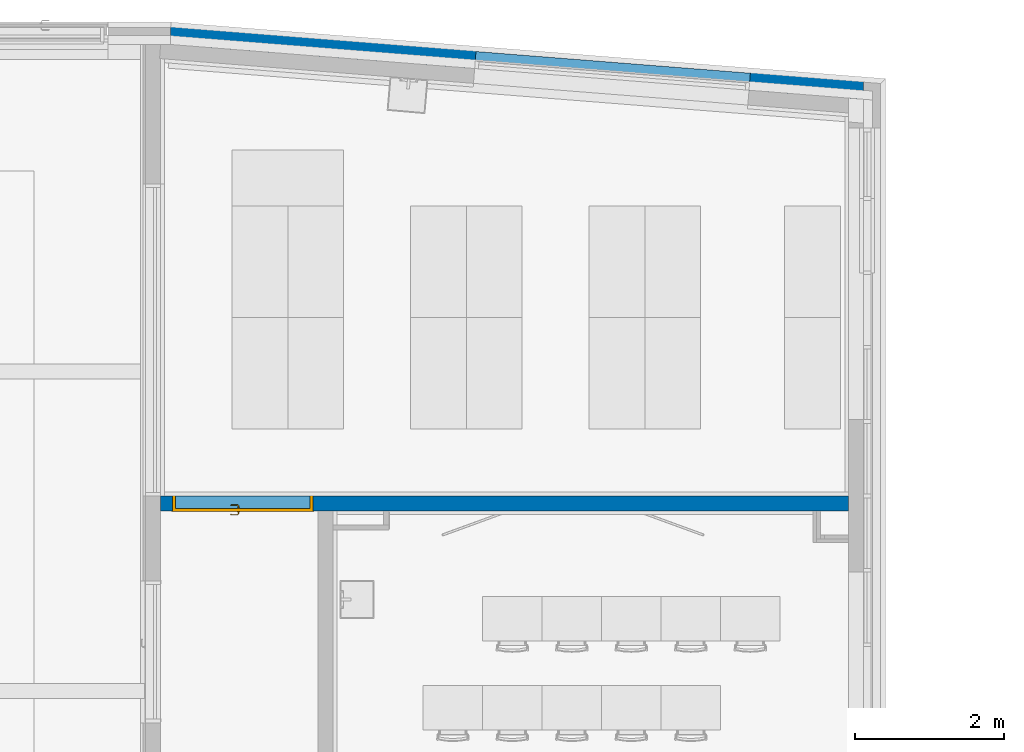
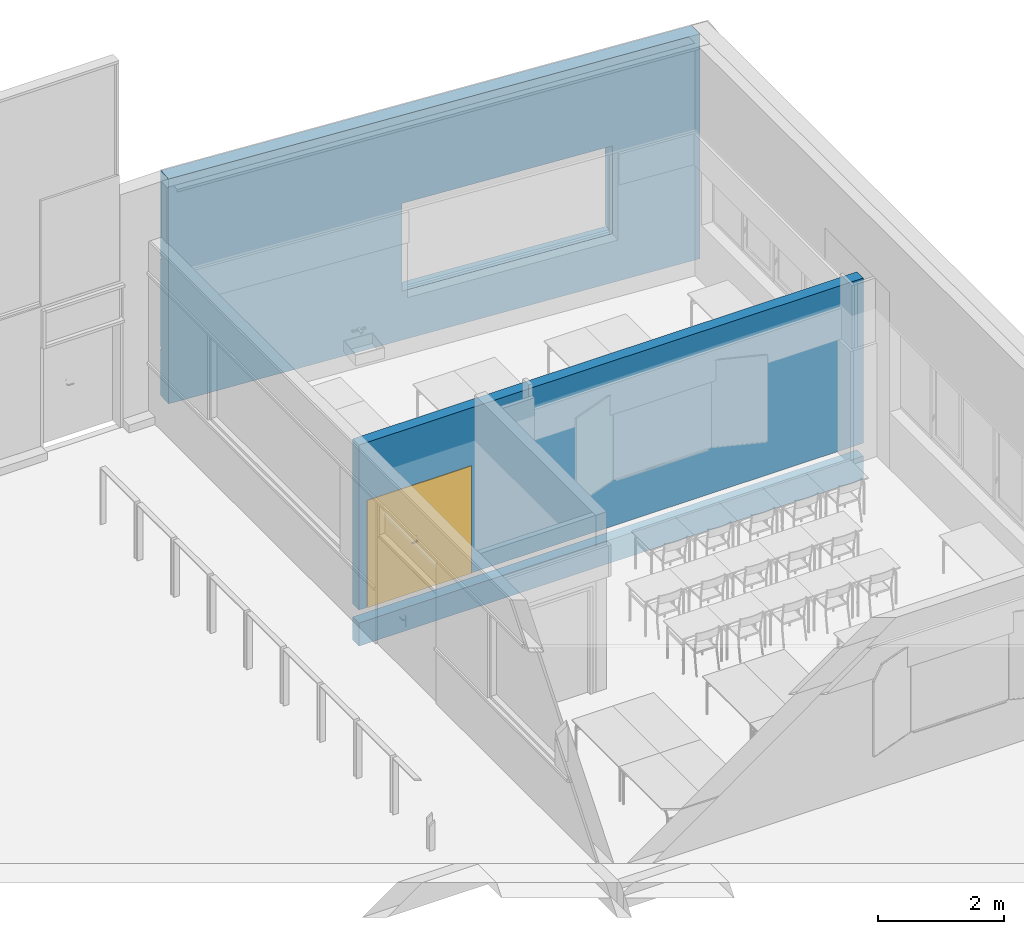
# One storey, part 106 of 137: 2 walls, 1 door, 1 opening.
"""IFC2X3 building model written with IfcOpenShell, lengths in centimetres."""

from ifc_helpers import new_model, entity, si_unit, converted_unit, derived_unit, direction, frame, frame_2d, origin, place, context, subcontext, project, spatial, rectangle, extrude, faceted_brep, source, transform, mapped, material, material_list, layer, layer_set, type_object, type_shapes, element, fill, save


model = new_model("IFC2X3")

# Units and contexts
model_context = context("Model", 3, precision=0.001, world=origin(), true_north=direction((6.12303176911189e-17, 1.0)))
body_context = subcontext(model_context, "Body", "Model", "MODEL_VIEW")
ifc_project = project(units=[si_unit("LENGTHUNIT", "METRE", prefix="CENTI"), si_unit("AREAUNIT", "SQUARE_METRE"), si_unit("VOLUMEUNIT", "CUBIC_METRE"), converted_unit("PLANEANGLEUNIT", "DEGREE", entity("IfcRatioMeasure", 0.0174532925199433), si_unit("PLANEANGLEUNIT", "RADIAN"), dimensions=[0, 0, 0, 0, 0, 0, 0]), si_unit("MASSUNIT", "GRAM", prefix="KILO"), si_unit("TIMEUNIT", "SECOND"), si_unit("FREQUENCYUNIT", "HERTZ"), si_unit("THERMODYNAMICTEMPERATUREUNIT", "DEGREE_CELSIUS"), derived_unit("THERMALTRANSMITTANCEUNIT", [(si_unit("MASSUNIT", "GRAM", prefix="KILO"), 1), (si_unit("THERMODYNAMICTEMPERATUREUNIT", "KELVIN"), -1), (si_unit("TIMEUNIT", "SECOND"), -3)]), derived_unit("VOLUMETRICFLOWRATEUNIT", [(si_unit("LENGTHUNIT", "METRE"), 3), (si_unit("TIMEUNIT", "SECOND"), -1)]), si_unit("ELECTRICCURRENTUNIT", "AMPERE"), si_unit("ELECTRICVOLTAGEUNIT", "VOLT"), si_unit("POWERUNIT", "WATT"), si_unit("FORCEUNIT", "NEWTON", prefix="KILO"), si_unit("ILLUMINANCEUNIT", "LUX"), si_unit("LUMINOUSFLUXUNIT", "LUMEN"), si_unit("LUMINOUSINTENSITYUNIT", "CANDELA"), derived_unit("USERDEFINED", [(si_unit("MASSUNIT", "GRAM", prefix="KILO"), -1), (si_unit("LENGTHUNIT", "METRE"), -2), (si_unit("TIMEUNIT", "SECOND"), 3), (si_unit("LUMINOUSFLUXUNIT", "LUMEN"), 1)]), derived_unit("LINEARVELOCITYUNIT", [(si_unit("LENGTHUNIT", "METRE"), 1), (si_unit("TIMEUNIT", "SECOND"), -1)]), si_unit("PRESSUREUNIT", "PASCAL"), derived_unit("USERDEFINED", [(si_unit("LENGTHUNIT", "METRE"), -2), (si_unit("MASSUNIT", "GRAM", prefix="KILO"), 1), (si_unit("TIMEUNIT", "SECOND"), -2)])], contexts=[model_context])

# Site, building, storey
site_placement = place(None, frame((8.62739174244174, -249.285249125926, 0.0)))
site = spatial("IfcSite", under=ifc_project, at=site_placement, Name="Default", CompositionType="ELEMENT")
building_placement = place(site_placement, origin())
building = spatial("IfcBuilding", under=site, at=building_placement, CompositionType="ELEMENT")
storey_placement = place(building_placement, origin())
storey = spatial("IfcBuildingStorey", under=building, at=storey_placement, Name="RDC", CompositionType="ELEMENT", Elevation=-8.82465566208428e-11)

# Wall, opening, door
ifc_material_1 = material(Name="Béton, coulé sur place, gris")
ifc_layer = layer(ifc_material_1, 20.0)
ifc_layer_set = layer_set([ifc_layer], Name="Mur de base:BET 20")
wall_type_1 = type_object("IfcWallType", Name="Mur de base:BET 20", PredefinedType="STANDARD", material=ifc_layer_set)
wall_1_placement = place(storey_placement, frame((3978.90482781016, 6944.9802081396, -70.0), z_axis=(0.0, 0.0, 1.0), x_axis=(-1.0, 0.0, 0.0)))
wall_1 = element("IfcWall", 1, at=wall_1_placement, inside=storey, type_object=wall_type_1, Name="Mur de base:BET 20", ObjectType="Mur de base:BET 20", context=body_context, shape_type="Brep", body=[
    faceted_brep([(0.0, -10.0, 0.0), (925.0, -10.0, 0.0), (925.0, -10.0, 45.0), (0.0, -10.0, 45.0), (925.0, 10.0, 0.0), (0.0, 10.0, 0.0), (0.0, 10.0, 45.0), (925.0, 10.0, 45.0)], [[[0, 1, 2, 3]], [[4, 5, 6, 7]], [[1, 0, 5, 4]], [[3, 2, 7, 6]], [[1, 4, 7, 2]], [[5, 0, 3, 6]]]),
    faceted_brep([(720.0, -10.0, 277.0), (720.0, 10.0, 277.0), (909.0, 10.0, 277.0), (909.0, -10.0, 277.0), (720.0, -10.0, 70.0), (720.0, 10.0, 70.0), (909.0, 10.0, 70.0), (909.0, -10.0, 70.0), (0.0, -10.0, 390.0), (925.0, -10.0, 390.0), (925.0, 10.0, 390.0), (0.0, 10.0, 390.0), (0.0, -10.0, 70.0), (0.0, 10.0, 70.0), (38.0, 10.0, 70.0), (43.0, 10.0, 70.0), (48.0, 10.0, 70.0), (618.0, 10.0, 70.0), (625.0, 10.0, 70.0), (693.0, 10.0, 70.0), (713.0, 10.0, 70.0), (925.0, -10.0, 350.0), (925.0, -10.0, 290.0), (925.0, -10.0, 70.0), (925.0, 10.0, 70.0)], [[[0, 1, 2, 3]], [[1, 0, 4, 5]], [[3, 2, 6, 7]], [[8, 9, 10, 11]], [[4, 12, 13, 14, 15, 16, 17, 18, 19, 20, 5]], [[8, 11, 13, 12]], [[10, 9, 21, 22, 23, 24]], [[23, 7, 6, 24]], [[2, 1, 5, 20, 19, 18, 17, 16, 15, 14, 13, 11, 10, 24, 6]], [[0, 3, 7, 23, 22, 21, 9, 8, 12, 4]]]),
])
opening_placement = place(wall_1_placement, frame((720.0, -10.0, 70.0)))
opening = element("IfcOpeningElement", 2, at=opening_placement, cuts=wall_1, Name="Double(R)_bois_mu:183 x 204 cm:1", ObjectType="Opening", context=body_context, shape_type="SweptSolid", body=[
    extrude(rectangle(XDim=206.999999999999, YDim=189.0, at=frame_2d((103.499999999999, 94.4999999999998), x_axis=(1.0, 0.0))), frame((0.0, 0.0, 0.0), z_axis=(0.0, 1.0, 0.0), x_axis=(0.0, 0.0, 1.0)), (0.0, 0.0, 1.0), 20.0),
])
ifc_material_2 = material(Name="Porte - Poignée")
ifc_material_3 = material(Name="Porte - Cadre")
ifc_material_4 = material(Name="Porte - Panneau")
ifc_material_list_1 = material_list([ifc_material_2, ifc_material_3, ifc_material_4])
ifc_material_list_2 = material_list([ifc_material_2, ifc_material_3, ifc_material_4])
door_style = type_object("IfcDoorStyle", Name="183 x 204 cm", ConstructionType="NOTDEFINED", OperationType="DOUBLE_DOOR_SINGLE_SWING", ParameterTakesPrecedence=False, Sizeable=False, material=ifc_material_list_2)
shared_shape = source(origin(), body_context, "Body", "Brep", [
    faceted_brep([(89.2025298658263, 3.69999999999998, 100.778044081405), (88.7974701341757, 3.69999999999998, 100.778044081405), (88.3999999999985, 3.69999999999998, 100.699999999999), (88.4000000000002, 3.69999999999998, 99.3000000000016), (88.7974701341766, 3.69999999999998, 99.2219559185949), (89.2025298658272, 3.69999999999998, 99.2219559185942), (89.6000000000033, 3.69999999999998, 99.2999999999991), (89.600000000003, 3.69999999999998, 100.699999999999), (88.3999999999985, 5.94852045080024, 100.699999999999), (88.3999999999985, 5.94852045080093, 99.3000000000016), (88.7974701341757, 6.1131579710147, 100.778044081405), (89.2025298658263, 6.2809392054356, 100.778044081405), (87.583890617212, 7.89957845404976, 100.778044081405), (87.4161093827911, 7.49451872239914, 100.778044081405), (79.0793122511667, 7.49451872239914, 100.778044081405), (78.9115310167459, 7.89957845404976, 100.778044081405), (78.145104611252, 7.13315204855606, 100.778044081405), (78.4315250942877, 6.84673156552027, 100.778044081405), (89.6000000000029, 6.44557672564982, 100.699999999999), (89.6000000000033, 6.44557672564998, 99.2999999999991), (89.2025298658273, 6.28093920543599, 99.2219559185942), (88.7974701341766, 6.11315797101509, 99.2219559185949), (87.4161093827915, 7.49451872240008, 99.2219559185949), (87.5838906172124, 7.8995784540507, 99.2219559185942), (78.9115310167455, 7.8995784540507, 99.2219559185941), (79.0793122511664, 7.49451872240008, 99.2219559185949), (78.4315250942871, 6.84673156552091, 99.2219559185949), (78.1451046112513, 7.1331520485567, 99.2219559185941), (87.2514718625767, 7.09704858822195, 100.699999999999), (87.2514718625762, 7.09704858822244, 99.3000000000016), (87.7485281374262, 8.29704858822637, 100.699999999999), (87.7485281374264, 8.29704858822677, 99.2999999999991), (83.2477108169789, 7.09704858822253, 100.699999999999), (79.2439497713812, 7.09704858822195, 100.699999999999), (79.2439497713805, 7.09704858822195, 99.3000000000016), (83.2477108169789, 7.09704858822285, 99.3000000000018), (83.2477108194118, 7.71249275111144, 100.787811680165), (82.7399422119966, 8.29704858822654, 100.699999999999), (78.7468934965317, 8.29704858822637, 100.699999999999), (83.7554791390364, 8.29704858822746, 99.2999999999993), (78.7468934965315, 8.29704858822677, 99.2999999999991), (83.247710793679, 7.71249274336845, 99.2121883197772), (77.8640507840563, 7.41420587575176, 100.699999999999), (77.8640507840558, 7.41420587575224, 99.2999999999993), (78.7125789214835, 6.56567773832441, 99.3000000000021), (78.7125789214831, 6.56567773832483, 100.699999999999)], [[[0, 1, 2, 3, 4, 5, 6, 7]], [[8, 9, 3, 2]], [[1, 10, 8, 2]], [[1, 0, 11, 12, 13, 10]], [[14, 15, 16, 17]], [[7, 18, 11, 0]], [[18, 7, 6, 19]], [[6, 5, 20, 19]], [[5, 4, 21, 22, 23, 20]], [[24, 25, 26, 27]], [[4, 3, 9, 21]], [[28, 29, 9, 8]], [[8, 10, 13, 28]], [[18, 30, 12, 11]], [[31, 30, 18, 19]], [[19, 20, 23, 31]], [[21, 9, 29, 22]], [[29, 28, 32, 33, 34, 35]], [[36, 32, 13]], [[37, 38, 15]], [[37, 12, 30]], [[36, 12, 37]], [[14, 32, 36]], [[36, 15, 14]], [[28, 13, 32]], [[32, 14, 33]], [[12, 36, 13]], [[15, 36, 37]], [[30, 31, 39, 40, 38, 37]], [[23, 41, 39]], [[24, 39, 41]], [[39, 31, 23]], [[39, 24, 40]], [[22, 35, 41]], [[41, 23, 22]], [[41, 35, 25]], [[35, 22, 29]], [[34, 25, 35]], [[24, 41, 25]], [[17, 16, 42, 43, 27, 26, 44, 45]], [[45, 44, 34, 33]], [[33, 14, 17, 45]], [[15, 38, 42, 16]], [[43, 42, 38, 40]], [[24, 27, 43, 40]], [[34, 44, 26, 25]]]),
    faceted_brep([(88.7974701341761, -1.30000000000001, 100.778044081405), (89.2025298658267, -1.30000000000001, 100.778044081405), (89.6000000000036, -1.30000000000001, 100.699999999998), (89.6000000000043, -1.30000000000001, 99.2999999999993), (89.2025298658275, -1.30000000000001, 99.2219559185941), (88.7974701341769, -1.30000000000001, 99.2219559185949), (88.3999999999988, -1.30000000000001, 99.3000000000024), (88.3999999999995, -1.30000000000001, 100.699999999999), (89.2025298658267, -3.90045754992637, 100.778044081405), (89.6000000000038, -4.06509507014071, 100.699999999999), (88.7974701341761, -3.73267631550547, 100.778044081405), (87.4298602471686, -5.10028620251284, 100.778044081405), (87.5976414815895, -5.50534593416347, 100.778044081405), (78.9142453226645, -5.50534593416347, 100.778044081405), (79.0820265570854, -5.10028620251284, 100.778044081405), (78.4342394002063, -4.4524990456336, 100.778044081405), (78.1478189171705, -4.73891952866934, 100.778044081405), (88.3999999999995, -3.56803879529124, 100.699999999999), (88.3999999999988, -3.56803879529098, 99.3000000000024), (88.7974701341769, -3.7326763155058, 99.2219559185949), (89.2025298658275, -3.9004575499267, 99.2219559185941), (87.5976414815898, -5.50534593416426, 99.2219559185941), (87.4298602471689, -5.10028620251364, 99.2219559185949), (79.0820265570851, -5.10028620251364, 99.2219559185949), (78.9142453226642, -5.50534593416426, 99.2219559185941), (78.1478189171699, -4.73891952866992, 99.2219559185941), (78.4342394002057, -4.45249904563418, 99.2219559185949), (89.6000000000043, -4.06509507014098, 99.2999999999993), (87.7622790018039, -5.9028160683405, 100.699999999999), (87.2652227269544, -4.70281606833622, 100.699999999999), (87.2652227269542, -4.70281606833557, 99.3000000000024), (87.7622790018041, -5.90281606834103, 99.2999999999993), (83.255943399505, -5.31828027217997, 100.787811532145), (83.7692302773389, -5.90281606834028, 100.699999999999), (78.7496078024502, -5.90281606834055, 100.699999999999), (83.2559434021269, -4.70281606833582, 100.699999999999), (79.2466640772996, -4.70281606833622, 100.699999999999), (83.2559436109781, -4.70281606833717, 99.3000000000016), (79.2466640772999, -4.70281606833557, 99.3000000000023), (83.2559434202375, -5.31828027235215, 99.2121884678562), (82.7426572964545, -5.90281606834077, 99.2999999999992), (78.7496078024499, -5.90281606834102, 99.2999999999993), (78.715293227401, -4.17144521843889, 99.3000000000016), (77.8667650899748, -5.01997335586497, 99.2999999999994), (77.8667650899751, -5.01997335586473, 100.699999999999), (78.7152932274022, -4.17144521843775, 100.699999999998)], [[[0, 1, 2, 3, 4, 5, 6, 7]], [[2, 1, 8, 9]], [[1, 0, 10, 11, 12, 8]], [[13, 14, 15, 16]], [[0, 7, 17, 10]], [[18, 17, 7, 6]], [[5, 19, 18, 6]], [[5, 4, 20, 21, 22, 19]], [[23, 24, 25, 26]], [[3, 27, 20, 4]], [[9, 27, 3, 2]], [[9, 8, 12, 28]], [[10, 17, 29, 11]], [[30, 29, 17, 18]], [[18, 19, 22, 30]], [[20, 27, 31, 21]], [[28, 31, 27, 9]], [[12, 32, 33]], [[13, 33, 32]], [[33, 28, 12]], [[33, 13, 34]], [[11, 35, 32]], [[32, 12, 11]], [[32, 35, 14]], [[35, 11, 29]], [[36, 14, 35]], [[13, 32, 14]], [[29, 30, 37, 38, 36, 35]], [[39, 37, 22]], [[40, 41, 24]], [[40, 21, 31]], [[39, 21, 40]], [[23, 37, 39]], [[39, 24, 23]], [[30, 22, 37]], [[37, 23, 38]], [[21, 39, 22]], [[24, 39, 40]], [[31, 28, 33, 34, 41, 40]], [[42, 26, 25, 43, 44, 16, 15, 45]], [[13, 16, 44, 34]], [[36, 45, 15, 14]], [[42, 45, 36, 38]], [[38, 23, 26, 42]], [[24, 41, 43, 25]], [[44, 43, 41, 34]]]),
    faceted_brep([(89.0, 3.19999999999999, 86.4641016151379), (90.0352761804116, 3.19999999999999, 86.6003983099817), (91.0, 3.19999999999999, 87.0), (91.0, 3.19999999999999, 108.0), (90.0352761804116, 3.19999999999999, 108.399601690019), (89.0, 3.19999999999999, 108.535898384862), (87.9647238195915, 3.19999999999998, 108.399601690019), (87.0, 3.19999999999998, 108.0), (87.0, 3.19999999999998, 87.0), (87.9647238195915, 3.19999999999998, 86.6003983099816), (89.0, 3.69999999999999, 108.535898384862), (90.0352761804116, 3.69999999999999, 108.399601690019), (91.0, 3.69999999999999, 108.0), (91.0, 3.69999999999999, 87.0), (90.0352761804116, 3.69999999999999, 86.6003983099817), (89.0, 3.69999999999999, 86.4641016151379), (87.9647238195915, 3.69999999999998, 86.6003983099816), (87.0, 3.69999999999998, 87.0), (87.0, 3.69999999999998, 108.0), (87.9647238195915, 3.69999999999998, 108.399601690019)], [[[0, 1, 2, 3, 4, 5, 6, 7, 8, 9]], [[10, 11, 12, 13, 14, 15, 16, 17, 18, 19]], [[6, 19, 18, 7]], [[5, 10, 19, 6]], [[4, 11, 10, 5]], [[4, 3, 12, 11]], [[12, 3, 2, 13]], [[1, 14, 13, 2]], [[0, 15, 14, 1]], [[9, 16, 15, 0]], [[9, 8, 17, 16]], [[17, 8, 7, 18]]]),
    faceted_brep([(89.0, -1.30000000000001, 86.4641016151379), (90.0352761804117, -1.30000000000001, 86.6003983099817), (91.0, -1.30000000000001, 87.0), (91.0, -1.30000000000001, 108.0), (90.0352761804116, -1.30000000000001, 108.399601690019), (89.0, -1.30000000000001, 108.535898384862), (87.9647238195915, -1.30000000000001, 108.399601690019), (87.0, -1.30000000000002, 108.0), (87.0, -1.30000000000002, 87.0), (87.9647238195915, -1.30000000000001, 86.6003983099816), (91.0, -0.800000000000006, 108.0), (91.0, -0.800000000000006, 87.0), (90.0352761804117, -0.800000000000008, 86.6003983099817), (89.0, -0.800000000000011, 86.4641016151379), (87.9647238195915, -0.800000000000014, 86.6003983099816), (87.0, -0.800000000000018, 87.0), (87.0, -0.800000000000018, 108.0), (87.9647238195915, -0.800000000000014, 108.399601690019), (89.0, -0.800000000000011, 108.535898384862), (90.0352761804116, -0.800000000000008, 108.399601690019)], [[[0, 1, 2, 3, 4, 5, 6, 7, 8, 9]], [[10, 11, 12, 13, 14, 15, 16, 17, 18, 19]], [[1, 12, 11, 2]], [[0, 13, 12, 1]], [[9, 14, 13, 0]], [[9, 8, 15, 14]], [[15, 8, 7, 16]], [[6, 17, 16, 7]], [[5, 18, 17, 6]], [[4, 19, 18, 5]], [[4, 3, 10, 19]], [[10, 3, 2, 11]]]),
    faceted_brep([(189.0, 0.0, 0.0), (190.0, 0.0, 0.0), (190.0, -0.799999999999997, 0.0), (186.0, -0.799999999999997, 0.0), (186.0, 3.2, 0.0), (185.0, 3.2, 0.0), (185.0, 20.8000000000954, 0.0), (190.0, 20.8000000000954, 0.0), (190.0, 20.0, 0.0), (189.0, 20.0, 0.0), (189.0, 20.0, 207.0), (189.0, 0.0, 207.0), (190.0, 20.0, 208.0), (-1.0, 20.0, 208.0), (-1.0, 20.0, 0.0), (0.0, 20.0, 0.0), (0.0, 20.0, 207.0), (190.0, 20.8000000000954, 208.0), (185.0, 20.8000000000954, 203.0), (4.0, 20.8000000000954, 203.0), (4.0, 20.8000000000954, 0.0), (-1.0, 20.8000000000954, 0.0), (-1.0, 20.8000000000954, 208.0), (185.0, 3.2, 203.0), (186.0, 3.2, 204.0), (3.0, 3.2, 204.0), (3.0, 3.2, 0.0), (4.0, 3.2, 0.0), (4.0, 3.2, 203.0), (186.0, -0.799999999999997, 204.0), (190.0, -0.799999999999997, 208.0), (-1.0, -0.799999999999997, 208.0), (-1.0, -0.799999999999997, 0.0), (3.0, -0.799999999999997, 0.0), (3.0, -0.799999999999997, 204.0), (190.0, 0.0, 208.0), (0.0, 0.0, 207.0), (0.0, 0.0, 0.0), (-1.0, 0.0, 0.0), (-1.0, 0.0, 208.0)], [[[0, 1, 2, 3, 4, 5, 6, 7, 8, 9]], [[9, 10, 11, 0]], [[8, 12, 13, 14, 15, 16, 10, 9]], [[7, 17, 12, 8]], [[6, 18, 19, 20, 21, 22, 17, 7]], [[5, 23, 18, 6]], [[4, 24, 25, 26, 27, 28, 23, 5]], [[3, 29, 24, 4]], [[2, 30, 31, 32, 33, 34, 29, 3]], [[1, 35, 30, 2]], [[0, 11, 36, 37, 38, 39, 35, 1]], [[16, 15, 37, 36]], [[37, 15, 14, 21, 20, 27, 26, 33, 32, 38]], [[22, 21, 14, 13]], [[28, 27, 20, 19]], [[34, 33, 26, 25]], [[39, 38, 32, 31]], [[10, 16, 36, 11]], [[17, 22, 13, 12]], [[23, 28, 19, 18]], [[29, 34, 25, 24]], [[35, 39, 31, 30]]]),
    faceted_brep([(3.0, -0.799999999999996, 0.0), (94.5000000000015, -0.799999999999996, 0.0), (94.5000000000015, -0.799999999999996, 204.0), (3.0, -0.799999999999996, 204.0), (3.0, 3.2, 0.0), (3.0, 3.2, 204.0), (94.5000000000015, 3.2, 204.0), (94.5000000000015, 3.2, 0.0)], [[[0, 1, 2, 3]], [[4, 5, 6, 7]], [[3, 5, 4, 0]], [[2, 6, 5, 3]], [[1, 7, 6, 2]], [[0, 4, 7, 1]]]),
    faceted_brep([(186.0, -0.799999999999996, 204.0), (94.5000000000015, -0.799999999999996, 204.0), (94.5000000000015, -0.799999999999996, 0.0), (186.0, -0.799999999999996, 0.0), (186.0, 3.2, 204.0), (186.0, 3.2, 0.0), (94.5000000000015, 3.2, 0.0), (94.5000000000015, 3.2, 204.0)], [[[0, 1, 2, 3]], [[4, 5, 6, 7]], [[3, 5, 4, 0]], [[2, 6, 5, 3]], [[1, 7, 6, 2]], [[0, 4, 7, 1]]]),
])
type_shapes(door_style, [shared_shape])
door_placement = place(opening_placement, frame((189.0, 20.0, 0.0), z_axis=(0.0, 0.0, 1.0), x_axis=(-1.0, 0.0, 0.0)))
door = element("IfcDoor", 3, at=door_placement, inside=storey, type_object=door_style, material=ifc_material_list_1, Name="Double(R)_bois_mu:183 x 204 cm", ObjectType="183 x 204 cm", OverallHeight=206.999999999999, OverallWidth=189.0, context=body_context, shape_type="MappedRepresentation", body=[
    mapped(shared_shape, transform((0.0, 0.0, 0.0), scale=1.0)),
])
fill(opening, door)

# Wall
wall_type_2 = type_object("IfcWallType", Name="Mur de base:MET PROJET 4 + ISO 23", PredefinedType="NOTDEFINED")
wall_2_placement = place(storey_placement, frame((3066.64540321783, 7575.51855707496, 15.0), z_axis=(0.0, 0.0, 1.0), x_axis=(0.996888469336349, -0.0788249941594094, 0.0)))
element("IfcWall", 4, at=wall_2_placement, inside=storey, type_object=wall_type_2, Name="Mur de base:MET PROJET 4 + ISO 23", ObjectType="Mur de base:MET PROJET 4 + ISO 23", context=body_context, shape_type="Brep", body=[
    faceted_brep([(1.06579554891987, -13.5000000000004, 0.0), (936.236691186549, -13.5000000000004, 0.0), (936.236691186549, -13.5000000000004, 435.9), (1.06579554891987, -13.5000000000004, 435.9), (411.890217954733, -13.5000000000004, 265.0), (781.890217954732, -13.5000000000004, 265.0), (781.890217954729, -13.4999999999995, 95.0), (411.890217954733, -13.5000000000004, 95.0), (934.101773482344, 13.4999999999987, 0.0), (0.0, 13.5000000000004, 0.0), (0.0, 13.5000000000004, 90.0), (934.101773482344, 13.4999999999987, 90.0), (1.06579554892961, 13.4999999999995, 436.0), (0.0, 13.5000000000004, 436.0), (1.06579554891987, -13.5000000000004, 436.0), (1.02632163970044, -12.5000000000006, 0.0), (411.890217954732, 9.50000000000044, 95.0), (411.890217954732, 13.4999999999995, 95.0), (411.890217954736, 13.4999999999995, 265.0), (411.890217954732, 9.49999999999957, 265.0), (781.890217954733, 9.49999999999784, 265.0), (781.890217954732, 13.4999999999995, 265.0), (781.890217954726, 13.4999999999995, 95.0), (781.890217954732, 9.50000000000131, 95.0), (934.418057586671, 9.49999999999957, 90.0), (934.41805758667, 9.50000000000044, 95.0), (934.101773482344, 13.4999999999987, 95.0), (934.101773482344, 13.4999999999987, 265.0), (934.418057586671, 9.49999999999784, 265.0), (934.418057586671, 9.49999999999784, 270.0), (934.101773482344, 13.4999999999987, 270.0), (934.101773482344, 13.4999999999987, 435.9), (0.157895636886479, 9.50000000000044, 95.0), (0.157895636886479, 9.50000000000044, 90.0), (0.157895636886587, 9.49999999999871, 265.0), (0.157895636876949, 9.49999999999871, 270.0), (0.0, 13.5000000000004, 95.0), (0.0, 13.5000000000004, 270.0), (0.0, 13.5000000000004, 265.0), (1.06579554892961, 13.4999999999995, 435.9)], [[[0, 1, 2, 3], [4, 5, 6, 7]], [[8, 9, 10, 11]], [[12, 13, 14]], [[9, 8, 1, 0, 15]], [[4, 7, 16, 17, 18, 19]], [[5, 4, 19, 20]], [[6, 5, 20, 21, 22, 23]], [[7, 6, 23, 16]], [[1, 8, 11, 24, 25, 26, 27, 28, 29, 30, 31, 2]], [[32, 16, 23, 25, 24, 33]], [[19, 34, 35, 29, 28, 20]], [[16, 32, 36, 17]], [[33, 24, 11, 10]], [[29, 35, 37, 30]], [[34, 19, 18, 38]], [[14, 13, 37, 35, 34, 38, 36, 32, 33, 10, 9, 15, 0, 3]], [[3, 39, 12, 14]], [[39, 3, 2, 31]], [[20, 28, 27, 21]], [[25, 23, 22, 26]], [[22, 21, 27, 26]], [[18, 17, 36, 38]], [[13, 12, 39, 31, 30, 37]]]),
])

save(model, "model.ifc")
